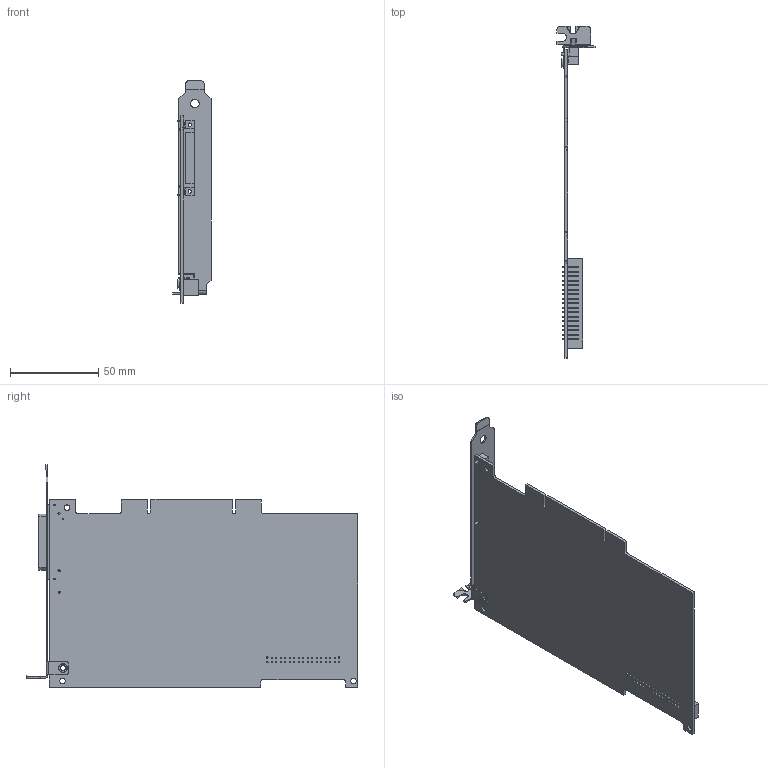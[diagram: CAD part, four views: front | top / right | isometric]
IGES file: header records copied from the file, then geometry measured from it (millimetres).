
Start section:  PTC IGES file: cu_pci-6722.igs
Global section: file name: cu_pci-6722.igs; native system: Pro/ENGINEER by Parametric Technology Corporation; preprocessor: 2010230; author: dkendric; organization: Unknown; date: 20110812.140541; units: inch
Bounding box: 21.59 x 187.78 x 126.07 mm (x, y, z)
Surface area: 45253.5 mm2 (no closed solid volume)
Topology: 0 solids, 0 shells, 837 faces, 4589 edges, 4589 vertices
Faces by surface type: bspline 672, revolution 165
